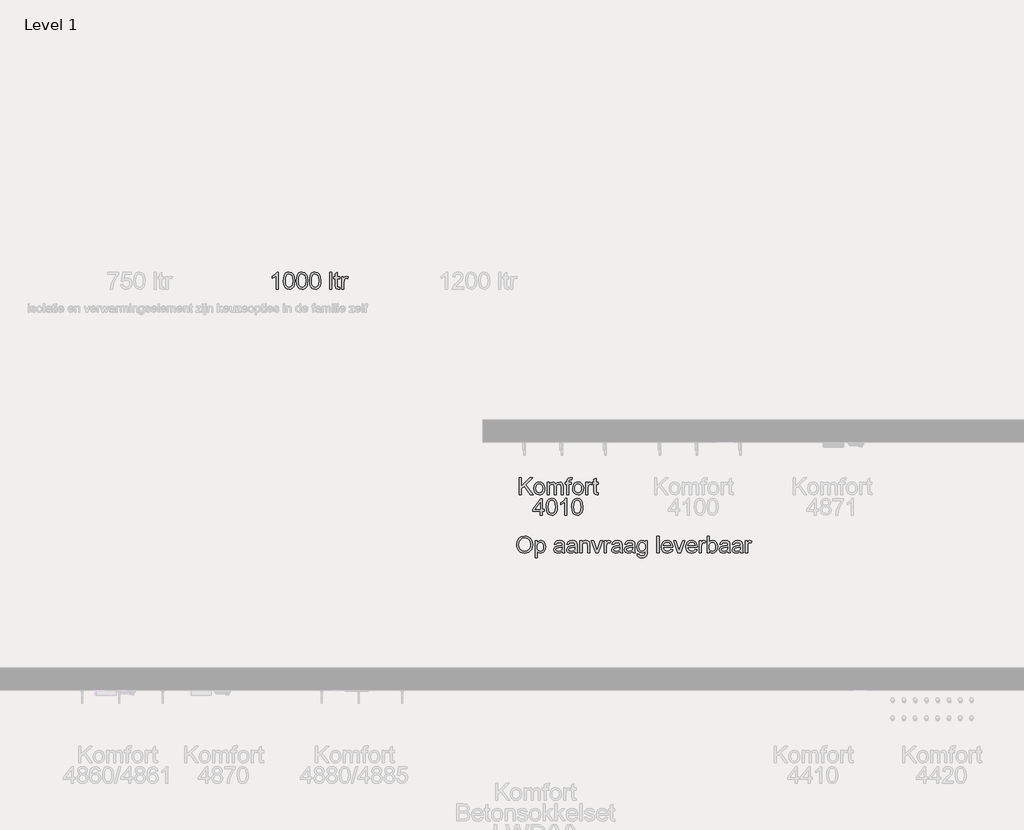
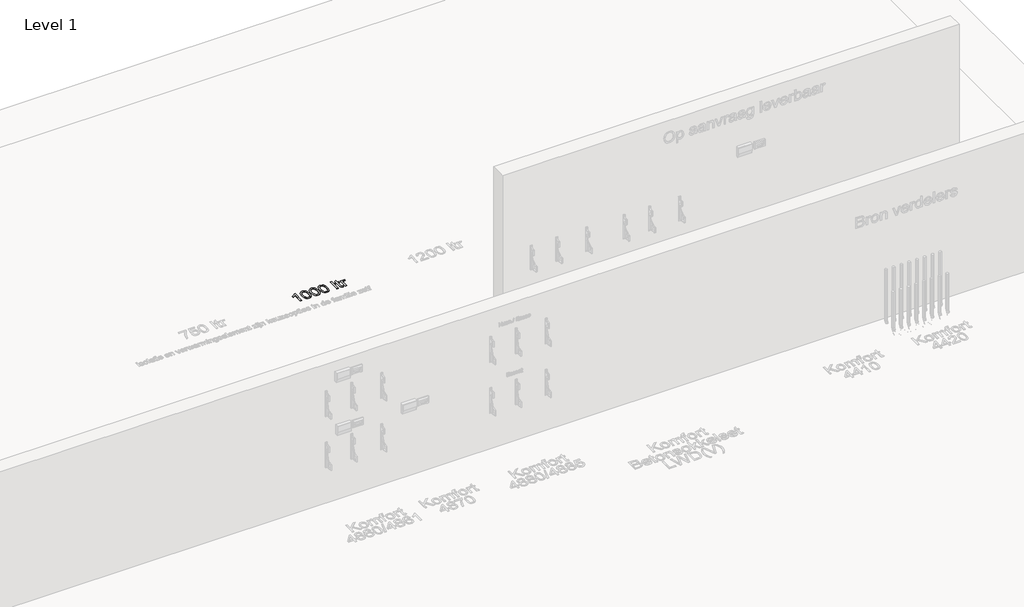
# One storey, part 31 of 34: 3 proxies.
"""IFC4 building model written with IfcOpenShell, lengths in millimetres."""

import ifcopenshell
import ifcopenshell.guid

model = None  # the IFC model being written
_history = None  # IfcOwnerHistory: only IFC2X3 demands one
_inside = {}  # id of a spatial element -> (the spatial element, [elements in it])
_under = {}  # id of a project, library or spatial element -> (it, [spatial elements below it])
_declared = {}  # id of a project -> (the project, [libraries it declares])
_typed = {}  # id of a type object -> (the type object, [elements of that type])
_made_of = {}  # id of a material, layer set ... -> (it, [elements and type objects made of it])


def new_model(schema):
    """Start an empty IFC model of exactly this schema.

    Asked for "IFC4X3", IfcOpenShell would pick the latest addendum, in which some entities
    have other attributes; the version numbers below select the first issue.
    IFC2X3 requires an IfcOwnerHistory on every rooted entity: one is made here for all.
    """
    global model, _history
    if schema == "IFC4X3":
        model = ifcopenshell.file(schema_version=(4, 3, 0, 0))
    else:
        model = ifcopenshell.file(schema=schema)
    _inside.clear()
    _under.clear()
    _declared.clear()
    _typed.clear()
    _made_of.clear()
    _history = None
    if model.schema == "IFC2X3":
        org = make("IfcOrganization", Name="unknown")
        user = make(
            "IfcPersonAndOrganization",
            ThePerson=make("IfcPerson", FamilyName="unknown"),
            TheOrganization=org,
        )
        app = make(
            "IfcApplication",
            ApplicationDeveloper=org,
            Version="unknown",
            ApplicationFullName="unknown",
            ApplicationIdentifier="unknown",
        )
        _history = make(
            "IfcOwnerHistory",
            OwningUser=user,
            OwningApplication=app,
            ChangeAction="ADDED",
            CreationDate=0,
        )
    return model


def make(cls, **values):
    """One entity of the class cls with the attributes given. An attribute that is None is left unset."""
    return model.create_entity(
        cls, **{name: value for name, value in values.items() if value is not None}
    )


def rooted(cls, **values):
    """An entity with a GlobalId (a new one), such as an element, a storey or a relation."""
    return make(cls, GlobalId=ifcopenshell.guid.new(), OwnerHistory=_history, **values)


def si_unit(unit_type, name, prefix=None):
    """IfcSIUnit, for example si_unit("LENGTHUNIT", "METRE", prefix="MILLI")."""
    return make("IfcSIUnit", UnitType=unit_type, Prefix=prefix, Name=name)


def assignment(units):
    """IfcUnitAssignment: the units of a project."""
    return None if units is None else make("IfcUnitAssignment", Units=units)


def point(xyz):
    """IfcCartesianPoint."""
    return None if xyz is None else make("IfcCartesianPoint", Coordinates=xyz)


def direction(xyz):
    """IfcDirection."""
    return None if xyz is None else make("IfcDirection", DirectionRatios=xyz)


def frame(location, z_axis=None, x_axis=None):
    """IfcAxis2Placement3D, a coordinate frame: its origin and axes. An axis left out is left unset."""
    return make(
        "IfcAxis2Placement3D",
        Location=point(location),
        Axis=direction(z_axis),
        RefDirection=direction(x_axis),
    )


def origin():
    """The frame at (0, 0, 0) with its axes left unset."""
    return frame((0.0, 0.0, 0.0))


def origin_with_axes():
    """The frame at (0, 0, 0) with the z axis (0, 0, 1) and the x axis (1, 0, 0) written out."""
    return frame((0.0, 0.0, 0.0), z_axis=(0.0, 0.0, 1.0), x_axis=(1.0, 0.0, 0.0))


def place(relative_to, where):
    """IfcLocalPlacement: puts the frame where relative to a parent placement (None: the world)."""
    return make(
        "IfcLocalPlacement", PlacementRelTo=relative_to, RelativePlacement=where
    )


def context(
    kind, dimensions, precision=None, world=None, true_north=None, identifier=None
):
    """IfcGeometricRepresentationContext, for example the 3D "Model" context."""
    return make(
        "IfcGeometricRepresentationContext",
        ContextIdentifier=identifier,
        ContextType=kind,
        CoordinateSpaceDimension=dimensions,
        Precision=precision,
        WorldCoordinateSystem=world,
        TrueNorth=true_north,
    )


def project(units=None, contexts=None):
    """IfcProject with its units and contexts."""
    return rooted(
        "IfcProject",
        Name="project",
        RepresentationContexts=contexts,
        UnitsInContext=assignment(units),
    )


def spatial(cls, under=None, at=None, **own):
    """A site, building, storey or space (cls), placed at a placement, below another one or the project."""
    s = rooted(cls, ObjectPlacement=at, **own)
    if under is not None:
        _under.setdefault(under.id(), (under, []))[1].append(s)
    return s


def polyline(points):
    """IfcPolyline through the points."""
    return make("IfcPolyline", Points=[point(p) for p in points])


def outline(outer, holes=None, kind="AREA"):
    """IfcArbitraryClosedProfileDef: a profile drawn as a closed curve; with holes, ...WithVoids."""
    if holes is None:
        return make("IfcArbitraryClosedProfileDef", ProfileType=kind, OuterCurve=outer)
    return make(
        "IfcArbitraryProfileDefWithVoids",
        ProfileType=kind,
        OuterCurve=outer,
        InnerCurves=holes,
    )


def extrude(swept, where, along, depth):
    """IfcExtrudedAreaSolid: the profile swept, set in the frame where, extruded along a direction by depth."""
    return make(
        "IfcExtrudedAreaSolid",
        SweptArea=swept,
        Position=where,
        ExtrudedDirection=direction(along),
        Depth=depth,
    )


def shape(context_of_items, identifier, shape_type, items):
    """IfcShapeRepresentation: the items that make up one representation, for example the "Body"."""
    return make(
        "IfcShapeRepresentation",
        ContextOfItems=context_of_items,
        RepresentationIdentifier=identifier,
        RepresentationType=shape_type,
        Items=items,
    )


def made_of(thing, what):
    """Note that an element or type object is made of a material, layer set ...; save() writes the relation."""
    if what is not None:
        _made_of.setdefault(what.id(), (what, []))[1].append(thing)
    return thing


def element(
    cls,
    number,
    at=None,
    inside=None,
    cuts=None,
    type_object=None,
    material=None,
    context=None,
    identifier="Body",
    shape_type=None,
    held_by="IfcProductDefinitionShape",
    body=None,
    shapes=None,
    **own,
):
    """One element of the class cls, such as IfcWall. Its Tag is "e" and its number.

    at: its placement. inside: the storey or other place that contains it. cuts: it is an
    opening in that element (IfcRelVoidsElement). A single representation is given by context,
    identifier, shape_type and body (its items); several are given by shapes. held_by: the class
    of the entity that holds the representations. save() writes the other relations.
    """
    e = rooted(cls, Tag="e%d" % number, ObjectPlacement=at, **own)
    if body is not None:
        shapes = [shape(context, identifier, shape_type, body)]
    if shapes is not None:
        e.Representation = make(held_by, Representations=shapes)
    if inside is not None:
        _inside.setdefault(inside.id(), (inside, []))[1].append(e)
    if cuts is not None:
        rooted(
            "IfcRelVoidsElement", RelatingBuildingElement=cuts, RelatedOpeningElement=e
        )
    if type_object is not None:
        _typed.setdefault(type_object.id(), (type_object, []))[1].append(e)
    return made_of(e, material)


def aggregate(whole, parts):
    """IfcRelAggregates: a whole, such as a stair, and the parts it consists of."""
    return rooted("IfcRelAggregates", RelatingObject=whole, RelatedObjects=parts)


def save(model, path):
    """Write the relations noted so far, then the file.

    IfcRelAggregates (storeys below a building ...), IfcRelContainedInSpatialStructure (elements
    in a storey), IfcRelDefinesByType, IfcRelAssociatesMaterial and IfcRelDeclares: one each for
    every whole, place, type object, material and project.
    """
    for whole, parts in _under.values():
        aggregate(whole, parts)
    for where, things in _inside.values():
        rooted(
            "IfcRelContainedInSpatialStructure",
            RelatedElements=things,
            RelatingStructure=where,
        )
    for kind, things in _typed.values():
        rooted("IfcRelDefinesByType", RelatedObjects=things, RelatingType=kind)
    for what, things in _made_of.values():
        rooted("IfcRelAssociatesMaterial", RelatedObjects=things, RelatingMaterial=what)
    for by, libraries in _declared.values():
        rooted("IfcRelDeclares", RelatingContext=by, RelatedDefinitions=libraries)
    model.write(path)


model = new_model("IFC4")

# Units and contexts
model_context = context("Model", 3, world=origin())
ifc_project = project(units=[si_unit("LENGTHUNIT", "METRE", prefix="MILLI")], contexts=[model_context])

# Site, building, storey
site = spatial("IfcSite", under=ifc_project)
building = spatial("IfcBuilding", under=site)
storey = spatial("IfcBuildingStorey", under=building, Name="Level 1", Elevation=0.0)

# Proxies
placement = place(None, origin())
element("IfcBuildingElementProxy", 1, Name="type", ObjectType="type", at=placement, inside=storey, context=model_context, shape_type="SweptSolid", body=[
    extrude(outline(polyline([(-2802.4145888, 8879.9570091), (-2797.4927138, 8912.6162639), (-2782.7270888, 8937.3247976), (-2760.1820167, 8952.8746774), (-2731.9218003, 8958.0579707), (-2712.5498051, 8955.6240764), (-2695.1790119, 8948.3223937), (-2680.7559349, 8936.6667447), (-2670.2270888, 8921.1709514), (-2663.7907907, 8902.583211), (-2661.645358, 8881.6517207), (-2663.903471, 8860.4407832), (-2670.6778099, 8841.5916245), (-2681.5942763, 8826.068788), (-2696.2787715, 8814.8368168), (-2713.5008268, 8808.021913), (-2732.0299734, 8805.7502784), (-2751.6994445, 8808.2607952), (-2769.1693965, 8815.7923457), (-2783.5564157, 8827.6643409), (-2793.9770888, 8843.1961918), (-2800.3052138, 8861.0672856), (-2802.4145888, 8879.9570091)]), holes=[polyline([(-2783.9530503, 8879.7767207), (-2780.2616441, 8856.6727543), (-2769.1874253, 8839.067586), (-2752.5422931, 8827.9257591), (-2732.1381465, 8824.2118168), (-2711.4365239, 8827.9618168), (-2694.7643484, 8839.2118168), (-2683.7712594, 8857.3578505), (-2680.1068965, 8881.7959514), (-2681.6754061, 8898.1391005), (-2686.3809349, 8912.2647014), (-2694.1017883, 8923.8166846), (-2704.7162715, 8932.4389803), (-2717.5212594, 8937.8070692), (-2731.8136272, 8939.5964322), (-2751.6724013, 8936.1484154), (-2768.5564157, 8925.8043649), (-2780.1038917, 8907.4014202), (-2783.9530503, 8879.7767207)])]), origin_with_axes(), (0.0, 0.0, 1.0), 5.0),
    extrude(outline(polyline([(-2638.5684349, 8766.5195091), (-2638.5684349, 8916.5195091), (-2620.1068965, 8916.5195091), (-2620.1068965, 8898.4185476), (-2607.3424734, 8913.725038), (-2590.1068965, 8918.8272014), (-2577.6219205, 8917.0423457), (-2566.7054542, 8911.6877784), (-2557.817233, 8903.0880187), (-2551.4169926, 8891.567586), (-2546.2607426, 8863.1180668), (-2547.7165719, 8847.3293048), (-2552.0840599, 8833.208211), (-2559.223483, 8821.4714322), (-2568.9951176, 8812.8356149), (-2580.3758268, 8807.5216125), (-2592.3424734, 8805.7502784), (-2608.4061753, 8810.4918649), (-2620.1068965, 8822.4810476), (-2620.1068965, 8766.5195091), (-2638.5684349, 8766.5195091)]), holes=[polyline([(-2620.1068965, 8861.4233553), (-2618.1102018, 8844.8728745), (-2612.1201176, 8833.2983553), (-2603.2814758, 8826.4834514), (-2592.739108, 8824.2118168), (-2582.0254662, 8826.5645812), (-2572.9614638, 8833.6228745), (-2566.7820768, 8845.6210716), (-2564.7222811, 8862.7935476), (-2566.7324974, 8879.2538841), (-2572.7631465, 8890.990663), (-2581.5882667, 8898.021913), (-2591.9818965, 8900.365663), (-2602.4160912, 8897.873175), (-2611.5792522, 8890.395711), (-2617.9749854, 8878.1676461), (-2620.1068965, 8861.4233553)])]), origin_with_axes(), (0.0, 0.0, 1.0), 5.0),
    extrude(outline(polyline([(-2398.5684349, 8821.9041245), (-2416.4710792, 8809.3921053), (-2436.2487234, 8805.7502784), (-2451.6769085, 8807.9407832), (-2463.0576176, 8814.5122976), (-2470.075346, 8824.4912639), (-2472.4145888, 8836.9041245), (-2468.8809349, 8851.5074899), (-2459.5960792, 8862.1084514), (-2446.6693965, 8868.1661437), (-2430.6958388, 8870.942586), (-2398.676608, 8877.2887399), (-2398.5684349, 8881.3993168), (-2399.8394686, 8889.6384995), (-2403.6525695, 8895.0291245), (-2412.1802138, 8899.0315284), (-2424.0612234, 8900.365663), (-2442.739108, 8896.8139803), (-2451.645358, 8884.2118168), (-2470.1068965, 8886.5195091), (-2462.1201176, 8904.5483553), (-2446.0383869, 8915.1132591), (-2421.6814157, 8918.8272014), (-2399.3076176, 8915.5459514), (-2386.6693965, 8907.3067687), (-2381.0083388, 8894.7767207), (-2380.1068965, 8878.6228745), (-2380.1068965, 8855.6541245), (-2379.1693965, 8823.5808072), (-2375.4915119, 8808.0579707), (-2393.9530503, 8808.0579707), (-2398.5684349, 8821.9041245)]), holes=[polyline([(-2398.5684349, 8858.8272014), (-2428.3520888, 8853.1661437), (-2444.2355022, 8850.1733553), (-2451.4290119, 8845.3055668), (-2453.9530503, 8838.2022014), (-2448.4542522, 8828.2142207), (-2432.3184349, 8824.2118168), (-2413.6405503, 8828.6288841), (-2401.5972811, 8839.3199899), (-2398.676608, 8853.598836), (-2398.5684349, 8858.8272014)])]), origin_with_axes(), (0.0, 0.0, 1.0), 5.0),
    extrude(outline(polyline([(-2285.4915119, 8821.9041245), (-2303.3941561, 8809.3921053), (-2323.1718003, 8805.7502784), (-2338.5999854, 8807.9407832), (-2349.9806945, 8814.5122976), (-2356.9984229, 8824.4912639), (-2359.3376657, 8836.9041245), (-2355.8040119, 8851.5074899), (-2346.5191561, 8862.1084514), (-2333.5924734, 8868.1661437), (-2317.6189157, 8870.942586), (-2285.5996849, 8877.2887399), (-2285.4915119, 8881.3993168), (-2286.7625455, 8889.6384995), (-2290.5756465, 8895.0291245), (-2299.1032907, 8899.0315284), (-2310.9843003, 8900.365663), (-2329.6621849, 8896.8139803), (-2338.5684349, 8884.2118168), (-2357.0299734, 8886.5195091), (-2349.0431945, 8904.5483553), (-2332.9614638, 8915.1132591), (-2308.6044926, 8918.8272014), (-2286.2306945, 8915.5459514), (-2273.5924734, 8907.3067687), (-2267.9314157, 8894.7767207), (-2267.0299734, 8878.6228745), (-2267.0299734, 8855.6541245), (-2266.0924734, 8823.5808072), (-2262.4145888, 8808.0579707), (-2280.8761272, 8808.0579707), (-2285.4915119, 8821.9041245)]), holes=[polyline([(-2285.4915119, 8858.8272014), (-2315.2751657, 8853.1661437), (-2331.1585792, 8850.1733553), (-2338.3520888, 8845.3055668), (-2340.8761272, 8838.2022014), (-2335.3773292, 8828.2142207), (-2319.2415119, 8824.2118168), (-2300.5636272, 8828.6288841), (-2288.520358, 8839.3199899), (-2285.5996849, 8853.598836), (-2285.4915119, 8858.8272014)])]), origin_with_axes(), (0.0, 0.0, 1.0), 5.0),
    extrude(outline(polyline([(-2241.645358, 8808.0579707), (-2241.645358, 8916.5195091), (-2223.1838195, 8916.5195091), (-2223.1838195, 8901.3752784), (-2209.067233, 8914.4642207), (-2189.7943965, 8918.8272014), (-2172.3605022, 8915.3115764), (-2160.4614638, 8906.0808072), (-2154.926608, 8892.505086), (-2153.9530503, 8874.6565284), (-2153.9530503, 8808.0579707), (-2172.4145888, 8808.0579707), (-2172.4145888, 8872.1685476), (-2174.5419926, 8888.5026822), (-2182.0600215, 8897.1384995), (-2194.7343003, 8900.365663), (-2205.5471008, 8898.5537639), (-2214.7643484, 8893.1180668), (-2221.0789518, 8882.6162639), (-2223.1838195, 8865.6060476), (-2223.1838195, 8808.0579707), (-2241.645358, 8808.0579707)])), origin_with_axes(), (0.0, 0.0, 1.0), 5.0),
    extrude(outline(polyline([(-2101.957858, 8808.0579707), (-2140.1068965, 8916.5195091), (-2120.5636272, 8916.5195091), (-2097.4506465, 8851.5435476), (-2090.4915119, 8829.692586), (-2083.676608, 8850.317586), (-2060.4193965, 8916.5195091), (-2040.8761272, 8916.5195091), (-2078.5564157, 8808.0579707), (-2101.957858, 8808.0579707)])), origin_with_axes(), (0.0, 0.0, 1.0), 5.0),
    extrude(outline(polyline([(-2024.7222811, 8808.0579707), (-2024.7222811, 8916.5195091), (-2008.5684349, 8916.5195091), (-2008.5684349, 8900.473836), (-1997.1020888, 8915.2574899), (-1985.5636272, 8918.8272014), (-1967.0299734, 8913.130086), (-1973.1958388, 8896.5796053), (-1986.176608, 8900.365663), (-1996.6153099, 8896.723836), (-2003.2679542, 8886.6276822), (-2006.2607426, 8865.0651822), (-2006.2607426, 8808.0579707), (-2024.7222811, 8808.0579707)])), origin_with_axes(), (0.0, 0.0, 1.0), 5.0),
    extrude(outline(polyline([(-1886.2607426, 8821.9041245), (-1904.1633869, 8809.3921053), (-1923.9410311, 8805.7502784), (-1939.3692162, 8807.9407832), (-1950.7499253, 8814.5122976), (-1957.7676537, 8824.4912639), (-1960.1068965, 8836.9041245), (-1956.5732426, 8851.5074899), (-1947.2883869, 8862.1084514), (-1934.3617042, 8868.1661437), (-1918.3881465, 8870.942586), (-1886.3689157, 8877.2887399), (-1886.2607426, 8881.3993168), (-1887.5317763, 8889.6384995), (-1891.3448772, 8895.0291245), (-1899.8725215, 8899.0315284), (-1911.7535311, 8900.365663), (-1930.4314157, 8896.8139803), (-1939.3376657, 8884.2118168), (-1957.7992042, 8886.5195091), (-1949.8124253, 8904.5483553), (-1933.7306945, 8915.1132591), (-1909.3737234, 8918.8272014), (-1886.9999253, 8915.5459514), (-1874.3617042, 8907.3067687), (-1868.7006465, 8894.7767207), (-1867.7992042, 8878.6228745), (-1867.7992042, 8855.6541245), (-1866.8617042, 8823.5808072), (-1863.1838195, 8808.0579707), (-1881.645358, 8808.0579707), (-1886.2607426, 8821.9041245)]), holes=[polyline([(-1886.2607426, 8858.8272014), (-1916.0443965, 8853.1661437), (-1931.9278099, 8850.1733553), (-1939.1213195, 8845.3055668), (-1941.645358, 8838.2022014), (-1936.1465599, 8828.2142207), (-1920.0107426, 8824.2118168), (-1901.332858, 8828.6288841), (-1889.2895888, 8839.3199899), (-1886.3689157, 8853.598836), (-1886.2607426, 8858.8272014)])]), origin_with_axes(), (0.0, 0.0, 1.0), 5.0),
    extrude(outline(polyline([(-1773.1838195, 8821.9041245), (-1791.0864638, 8809.3921053), (-1810.864108, 8805.7502784), (-1826.2922931, 8807.9407832), (-1837.6730022, 8814.5122976), (-1844.6907306, 8824.4912639), (-1847.0299734, 8836.9041245), (-1843.4963195, 8851.5074899), (-1834.2114638, 8862.1084514), (-1821.2847811, 8868.1661437), (-1805.3112234, 8870.942586), (-1773.2919926, 8877.2887399), (-1773.1838195, 8881.3993168), (-1774.4548532, 8889.6384995), (-1778.2679542, 8895.0291245), (-1786.7955984, 8899.0315284), (-1798.676608, 8900.365663), (-1817.3544926, 8896.8139803), (-1826.2607426, 8884.2118168), (-1844.7222811, 8886.5195091), (-1836.7355022, 8904.5483553), (-1820.6537715, 8915.1132591), (-1796.2968003, 8918.8272014), (-1773.9230022, 8915.5459514), (-1761.2847811, 8907.3067687), (-1755.6237234, 8894.7767207), (-1754.7222811, 8878.6228745), (-1754.7222811, 8855.6541245), (-1753.7847811, 8823.5808072), (-1750.1068965, 8808.0579707), (-1768.5684349, 8808.0579707), (-1773.1838195, 8821.9041245)]), holes=[polyline([(-1773.1838195, 8858.8272014), (-1802.9674734, 8853.1661437), (-1818.8508869, 8850.1733553), (-1826.0443965, 8845.3055668), (-1828.5684349, 8838.2022014), (-1823.0696369, 8828.2142207), (-1806.9338195, 8824.2118168), (-1788.2559349, 8828.6288841), (-1776.2126657, 8839.3199899), (-1773.2919926, 8853.598836), (-1773.1838195, 8858.8272014)])]), origin_with_axes(), (0.0, 0.0, 1.0), 5.0),
    extrude(outline(polyline([(-1733.9530503, 8798.8272014), (-1715.4915119, 8796.5195091), (-1709.5059349, 8786.7839322), (-1691.5852619, 8782.6733553), (-1672.6910311, 8787.3247976), (-1663.676608, 8800.3776822), (-1662.4145888, 8821.9041245), (-1675.4133869, 8811.5195091), (-1691.2607426, 8808.0579707), (-1710.2946969, 8812.0874178), (-1724.4879061, 8824.1757591), (-1733.3175335, 8841.8981149), (-1736.2607426, 8862.8296053), (-1730.9782907, 8891.4413841), (-1724.5149494, 8903.0564683), (-1715.6898292, 8911.6877784), (-1704.8049133, 8917.0423457), (-1692.1621849, 8918.8272014), (-1675.692834, 8914.7887399), (-1662.4145888, 8902.6733553), (-1662.4145888, 8916.5195091), (-1643.9530503, 8916.5195091), (-1643.9530503, 8822.8776822), (-1645.2150695, 8801.2565885), (-1649.0011272, 8787.0183072), (-1655.5230623, 8777.575699), (-1664.9927138, 8770.3416245), (-1677.2027498, 8765.7442687), (-1691.9458388, 8764.2118168), (-1709.1228219, 8766.3707711), (-1722.6489638, 8772.8476341), (-1731.325346, 8783.6604346), (-1733.9530503, 8798.8272014)]), holes=[polyline([(-1717.7992042, 8864.0916245), (-1715.8295527, 8847.1580308), (-1709.9205984, 8835.5159034), (-1701.0368844, 8828.7686077), (-1690.1429542, 8826.5195091), (-1679.3301537, 8828.755086), (-1670.4013676, 8835.4618168), (-1664.4112835, 8846.9552062), (-1662.4145888, 8863.5507591), (-1664.4698772, 8879.5558673), (-1670.6357426, 8891.0808072), (-1679.6952378, 8898.044449), (-1690.4314157, 8900.365663), (-1700.9737835, 8898.0805067), (-1709.8124253, 8891.225038), (-1715.8025094, 8879.8713721), (-1717.7992042, 8864.0916245)])]), origin_with_axes(), (0.0, 0.0, 1.0), 5.0),
    extrude(outline(polyline([(-1558.5684349, 8808.0579707), (-1558.5684349, 8955.7502784), (-1540.1068965, 8955.7502784), (-1540.1068965, 8808.0579707), (-1558.5684349, 8808.0579707)])), origin_with_axes(), (0.0, 0.0, 1.0), 5.0),
    extrude(outline(polyline([(-1436.4770888, 8840.365663), (-1418.3761272, 8838.0579707), (-1424.8980623, 8824.4191485), (-1435.3052138, 8814.223836), (-1449.3632066, 8807.8686678), (-1466.8376657, 8805.7502784), (-1488.4993244, 8809.4056269), (-1505.1669926, 8820.3716726), (-1515.7949974, 8837.936276), (-1519.3376657, 8861.3872976), (-1515.7589397, 8885.6270812), (-1505.0227619, 8903.755086), (-1488.5804542, 8915.0591726), (-1467.8833388, 8918.8272014), (-1447.8307546, 8915.068187), (-1431.8076176, 8903.7911437), (-1421.3013075, 8885.6991966), (-1417.7992042, 8861.4954707), (-1417.9073772, 8856.5195091), (-1500.8761272, 8856.5195091), (-1497.6805143, 8842.7003985), (-1490.2571369, 8832.5411437), (-1479.543495, 8826.2941485), (-1466.4770888, 8824.2118168), (-1448.3761272, 8828.0699899), (-1436.4770888, 8840.365663)]), holes=[polyline([(-1500.8761272, 8874.9810476), (-1436.2607426, 8874.9810476), (-1438.7577378, 8884.7346534), (-1443.6525695, 8891.7118168), (-1454.4157907, 8898.2022014), (-1467.9554542, 8900.365663), (-1480.3998652, 8898.639401), (-1490.6898292, 8893.4606149), (-1497.8427739, 8885.388199), (-1500.8761272, 8874.9810476)])]), origin_with_axes(), (0.0, 0.0, 1.0), 5.0),
    extrude(outline(polyline([(-1372.7270888, 8808.0579707), (-1410.8761272, 8916.5195091), (-1391.332858, 8916.5195091), (-1368.2198772, 8851.5435476), (-1361.2607426, 8829.692586), (-1354.4458388, 8850.317586), (-1331.1886272, 8916.5195091), (-1311.645358, 8916.5195091), (-1349.3256465, 8808.0579707), (-1372.7270888, 8808.0579707)])), origin_with_axes(), (0.0, 0.0, 1.0), 5.0),
    extrude(outline(polyline([(-1219.5540119, 8840.365663), (-1201.4530503, 8838.0579707), (-1207.9749854, 8824.4191485), (-1218.3821369, 8814.223836), (-1232.4401296, 8807.8686678), (-1249.9145888, 8805.7502784), (-1271.5762474, 8809.4056269), (-1288.2439157, 8820.3716726), (-1298.8719205, 8837.936276), (-1302.4145888, 8861.3872976), (-1298.8358628, 8885.6270812), (-1288.0996849, 8903.755086), (-1271.6573772, 8915.0591726), (-1250.9602619, 8918.8272014), (-1230.9076777, 8915.068187), (-1214.8845407, 8903.7911437), (-1204.3782306, 8885.6991966), (-1200.8761272, 8861.4954707), (-1200.9843003, 8856.5195091), (-1283.9530503, 8856.5195091), (-1280.7574373, 8842.7003985), (-1273.3340599, 8832.5411437), (-1262.6204181, 8826.2941485), (-1249.5540119, 8824.2118168), (-1231.4530503, 8828.0699899), (-1219.5540119, 8840.365663)]), holes=[polyline([(-1283.9530503, 8874.9810476), (-1219.3376657, 8874.9810476), (-1221.8346609, 8884.7346534), (-1226.7294926, 8891.7118168), (-1237.4927138, 8898.2022014), (-1251.0323772, 8900.365663), (-1263.4767883, 8898.639401), (-1273.7667522, 8893.4606149), (-1280.9196969, 8885.388199), (-1283.9530503, 8874.9810476)])]), origin_with_axes(), (0.0, 0.0, 1.0), 5.0),
    extrude(outline(polyline([(-1182.4145888, 8808.0579707), (-1182.4145888, 8916.5195091), (-1166.2607426, 8916.5195091), (-1166.2607426, 8900.473836), (-1154.7943965, 8915.2574899), (-1143.2559349, 8918.8272014), (-1124.7222811, 8913.130086), (-1130.8881465, 8896.5796053), (-1143.8689157, 8900.365663), (-1154.3076176, 8896.723836), (-1160.9602619, 8886.6276822), (-1163.9530503, 8865.0651822), (-1163.9530503, 8808.0579707), (-1182.4145888, 8808.0579707)])), origin_with_axes(), (0.0, 0.0, 1.0), 5.0),
    extrude(outline(polyline([(-1094.7222811, 8808.0579707), (-1113.1838195, 8808.0579707), (-1113.1838195, 8955.7502784), (-1094.7222811, 8955.7502784), (-1094.7222811, 8900.9786437), (-1081.7955984, 8914.365062), (-1065.7318965, 8918.8272014), (-1047.2343003, 8914.8067687), (-1032.8833388, 8903.5026822), (-1024.067233, 8885.9245572), (-1020.8761272, 8863.911336), (-1024.1799133, 8839.2659034), (-1034.0912715, 8820.9305668), (-1048.6360431, 8809.5453505), (-1065.8400695, 8805.7502784), (-1082.255334, 8810.6451101), (-1094.7222811, 8825.3296053), (-1094.7222811, 8808.0579707)]), holes=[polyline([(-1094.7222811, 8863.0459514), (-1093.4602619, 8847.6493168), (-1089.6742042, 8837.2286437), (-1080.0017282, 8827.4660235), (-1067.426608, 8824.2118168), (-1056.7715599, 8826.6096534), (-1047.6669926, 8833.803163), (-1041.4199974, 8845.7472735), (-1039.3376657, 8862.396913), (-1041.3343604, 8879.2899418), (-1047.3244445, 8891.098836), (-1056.1450575, 8898.0489562), (-1066.6333388, 8900.365663), (-1077.2883869, 8897.9678264), (-1086.3929542, 8890.7743168), (-1092.6399494, 8879.0465524), (-1094.7222811, 8863.0459514)])]), origin_with_axes(), (0.0, 0.0, 1.0), 5.0),
    extrude(outline(polyline([(-930.8761272, 8821.9041245), (-948.7787715, 8809.3921053), (-968.5564157, 8805.7502784), (-983.9846008, 8807.9407832), (-995.3653099, 8814.5122976), (-1002.3830383, 8824.4912639), (-1004.7222811, 8836.9041245), (-1001.1886272, 8851.5074899), (-991.9037715, 8862.1084514), (-978.9770888, 8868.1661437), (-963.0035311, 8870.942586), (-930.9843003, 8877.2887399), (-930.8761272, 8881.3993168), (-932.1471609, 8889.6384995), (-935.9602619, 8895.0291245), (-944.4879061, 8899.0315284), (-956.3689157, 8900.365663), (-975.0468003, 8896.8139803), (-983.9530503, 8884.2118168), (-1002.4145888, 8886.5195091), (-994.4278099, 8904.5483553), (-978.3460792, 8915.1132591), (-953.989108, 8918.8272014), (-931.6153099, 8915.5459514), (-918.9770888, 8907.3067687), (-913.3160311, 8894.7767207), (-912.4145888, 8878.6228745), (-912.4145888, 8855.6541245), (-911.4770888, 8823.5808072), (-907.7992042, 8808.0579707), (-926.2607426, 8808.0579707), (-930.8761272, 8821.9041245)]), holes=[polyline([(-930.8761272, 8858.8272014), (-960.6597811, 8853.1661437), (-976.5431945, 8850.1733553), (-983.7367042, 8845.3055668), (-986.2607426, 8838.2022014), (-980.7619445, 8828.2142207), (-964.6261272, 8824.2118168), (-945.9482426, 8828.6288841), (-933.9049734, 8839.3199899), (-930.9843003, 8853.598836), (-930.8761272, 8858.8272014)])]), origin_with_axes(), (0.0, 0.0, 1.0), 5.0),
    extrude(outline(polyline([(-817.7992042, 8821.9041245), (-835.7018484, 8809.3921053), (-855.4794926, 8805.7502784), (-870.9076777, 8807.9407832), (-882.2883869, 8814.5122976), (-889.3061152, 8824.4912639), (-891.645358, 8836.9041245), (-888.1117042, 8851.5074899), (-878.8268484, 8862.1084514), (-865.9001657, 8868.1661437), (-849.926608, 8870.942586), (-817.9073772, 8877.2887399), (-817.7992042, 8881.3993168), (-819.0702378, 8889.6384995), (-822.8833388, 8895.0291245), (-831.410983, 8899.0315284), (-843.2919926, 8900.365663), (-861.9698772, 8896.8139803), (-870.8761272, 8884.2118168), (-889.3376657, 8886.5195091), (-881.3508869, 8904.5483553), (-865.2691561, 8915.1132591), (-840.9121849, 8918.8272014), (-818.5383869, 8915.5459514), (-805.9001657, 8907.3067687), (-800.239108, 8894.7767207), (-799.3376657, 8878.6228745), (-799.3376657, 8855.6541245), (-798.4001657, 8823.5808072), (-794.7222811, 8808.0579707), (-813.1838195, 8808.0579707), (-817.7992042, 8821.9041245)]), holes=[polyline([(-817.7992042, 8858.8272014), (-847.582858, 8853.1661437), (-863.4662715, 8850.1733553), (-870.6597811, 8845.3055668), (-873.1838195, 8838.2022014), (-867.6850215, 8828.2142207), (-851.5492042, 8824.2118168), (-832.8713195, 8828.6288841), (-820.8280503, 8839.3199899), (-817.9073772, 8853.598836), (-817.7992042, 8858.8272014)])]), origin_with_axes(), (0.0, 0.0, 1.0), 5.0),
    extrude(outline(polyline([(-773.9530503, 8808.0579707), (-773.9530503, 8916.5195091), (-757.7992042, 8916.5195091), (-757.7992042, 8900.473836), (-746.332858, 8915.2574899), (-734.7943965, 8918.8272014), (-716.2607426, 8913.130086), (-722.426608, 8896.5796053), (-735.4073772, 8900.365663), (-745.8460792, 8896.723836), (-752.4987234, 8886.6276822), (-755.4915119, 8865.0651822), (-755.4915119, 8808.0579707), (-773.9530503, 8808.0579707)])), origin_with_axes(), (0.0, 0.0, 1.0), 5.0),
])
element("IfcBuildingElementProxy", 2, Name="type", ObjectType="type", at=placement, inside=storey, context=model_context, shape_type="SweptSolid", body=[
    extrude(outline(polyline([(-2779.7912964, 9326.140235), (-2779.7912964, 9473.8325427), (-2761.329758, 9473.8325427), (-2761.329758, 9401.5368697), (-2685.6086041, 9473.8325427), (-2659.7912964, 9473.8325427), (-2723.361008, 9413.1113889), (-2657.4836041, 9326.140235), (-2680.0557195, 9326.140235), (-2736.4499503, 9400.6354273), (-2761.329758, 9376.9094658), (-2761.329758, 9326.140235), (-2779.7912964, 9326.140235)])), origin_with_axes(), (0.0, 0.0, 1.0), 5.0),
    extrude(outline(polyline([(-2650.5605272, 9380.3710043), (-2646.5671378, 9406.5218456), (-2634.5869695, 9424.9022543), (-2619.7852868, 9433.9076629), (-2602.062931, 9436.9094658), (-2582.6683998, 9433.2541173), (-2567.1771137, 9422.2880716), (-2557.0223661, 9404.8767134), (-2553.6374503, 9381.8854273), (-2555.1338445, 9363.234586), (-2559.6230272, 9349.0368697), (-2566.9742892, 9338.4043576), (-2577.0569214, 9330.4491293), (-2589.0325825, 9325.4866894), (-2602.062931, 9323.8325427), (-2621.6918373, 9327.4743697), (-2637.1650945, 9338.3998504), (-2647.211669, 9356.1762927), (-2650.5605272, 9380.3710043)]), holes=[polyline([(-2632.0989887, 9380.407062), (-2629.9625705, 9363.6988288), (-2623.5533157, 9351.7952831), (-2613.907883, 9344.6693817), (-2602.062931, 9342.2940812), (-2590.2720657, 9344.6829033), (-2580.6446618, 9351.8493697), (-2574.235407, 9363.9106677), (-2572.0989887, 9380.983985), (-2574.2489286, 9397.2054394), (-2580.6987483, 9408.9467254), (-2590.3396738, 9416.0726269), (-2602.062931, 9418.4479273), (-2613.907883, 9416.0816413), (-2623.5533157, 9408.9827831), (-2629.9625705, 9397.1062807), (-2632.0989887, 9380.407062)])]), origin_with_axes(), (0.0, 0.0, 1.0), 5.0),
    extrude(outline(polyline([(-2532.8682195, 9326.140235), (-2532.8682195, 9434.6017735), (-2514.406681, 9434.6017735), (-2514.406681, 9416.7532158), (-2501.7143733, 9431.37461), (-2483.6494695, 9436.9094658), (-2473.3820416, 9435.4987086), (-2465.1518733, 9431.266437), (-2454.9836041, 9415.4551389), (-2440.578556, 9431.5458841), (-2422.3874503, 9436.9094658), (-2408.5097459, 9434.6783961), (-2398.2468253, 9427.985187), (-2391.9051786, 9416.6495499), (-2389.7912964, 9400.4911966), (-2389.7912964, 9326.140235), (-2408.2528349, 9326.140235), (-2408.2528349, 9392.5585043), (-2409.9655753, 9407.9731677), (-2416.1674983, 9415.563312), (-2426.7143733, 9418.4479273), (-2436.7158757, 9416.5999706), (-2444.8694214, 9411.0561004), (-2450.2915969, 9401.437711), (-2452.0989887, 9387.3661966), (-2452.0989887, 9326.140235), (-2470.5605272, 9326.140235), (-2470.5605272, 9394.6137927), (-2474.8333637, 9412.4984081), (-2480.4718854, 9416.9605475), (-2488.8417772, 9418.4479273), (-2502.5076426, 9414.4815812), (-2511.594181, 9402.8710043), (-2514.406681, 9380.8397543), (-2514.406681, 9326.140235), (-2532.8682195, 9326.140235)])), origin_with_axes(), (0.0, 0.0, 1.0), 5.0),
    extrude(outline(polyline([(-2357.4836041, 9326.140235), (-2357.4836041, 9416.140235), (-2373.6374503, 9416.140235), (-2373.6374503, 9434.6017735), (-2357.4836041, 9434.6017735), (-2357.4836041, 9445.5272543), (-2355.5364887, 9460.9238889), (-2346.0893733, 9471.921485), (-2327.4836041, 9476.140235), (-2310.6446618, 9474.1210043), (-2313.3489887, 9456.813312), (-2323.986008, 9457.6786966), (-2335.6146137, 9454.6137927), (-2339.0220657, 9443.1835043), (-2339.0220657, 9434.6017735), (-2318.2528349, 9434.6017735), (-2318.2528349, 9416.140235), (-2339.0220657, 9416.140235), (-2339.0220657, 9326.140235), (-2357.4836041, 9326.140235)])), origin_with_axes(), (0.0, 0.0, 1.0), 5.0),
    extrude(outline(polyline([(-2306.7143733, 9380.3710043), (-2302.7209839, 9406.5218456), (-2290.7408157, 9424.9022543), (-2275.939133, 9433.9076629), (-2258.2167772, 9436.9094658), (-2238.8222459, 9433.2541173), (-2223.3309599, 9422.2880716), (-2213.1762123, 9404.8767134), (-2209.7912964, 9381.8854273), (-2211.2876907, 9363.234586), (-2215.7768733, 9349.0368697), (-2223.1281354, 9338.4043576), (-2233.2107676, 9330.4491293), (-2245.1864286, 9325.4866894), (-2258.2167772, 9323.8325427), (-2277.8456834, 9327.4743697), (-2293.3189407, 9338.3998504), (-2303.3655152, 9356.1762927), (-2306.7143733, 9380.3710043)]), holes=[polyline([(-2288.2528349, 9380.407062), (-2286.1164166, 9363.6988288), (-2279.7071618, 9351.7952831), (-2270.0617291, 9344.6693817), (-2258.2167772, 9342.2940812), (-2246.4259118, 9344.6829033), (-2236.798508, 9351.8493697), (-2230.3892532, 9363.9106677), (-2228.2528349, 9380.983985), (-2230.4027748, 9397.2054394), (-2236.8525945, 9408.9467254), (-2246.49352, 9416.0726269), (-2258.2167772, 9418.4479273), (-2270.0617291, 9416.0816413), (-2279.7071618, 9408.9827831), (-2286.1164166, 9397.1062807), (-2288.2528349, 9380.407062)])]), origin_with_axes(), (0.0, 0.0, 1.0), 5.0),
    extrude(outline(polyline([(-2189.0220657, 9326.140235), (-2189.0220657, 9434.6017735), (-2172.8682195, 9434.6017735), (-2172.8682195, 9418.5561004), (-2161.4018733, 9433.3397543), (-2149.8634118, 9436.9094658), (-2131.329758, 9431.2123504), (-2137.4956233, 9414.6618697), (-2150.4763926, 9418.4479273), (-2160.9150945, 9414.8061004), (-2167.5677387, 9404.7099466), (-2170.5605272, 9383.1474466), (-2170.5605272, 9326.140235), (-2189.0220657, 9326.140235)])), origin_with_axes(), (0.0, 0.0, 1.0), 5.0),
    extrude(outline(polyline([(-2080.5605272, 9341.5368697), (-2078.2528349, 9325.5993697), (-2092.062931, 9323.8325427), (-2107.531681, 9326.8974466), (-2115.2480272, 9334.938312), (-2117.4836041, 9355.8878312), (-2117.4836041, 9416.140235), (-2131.329758, 9416.140235), (-2131.329758, 9434.6017735), (-2117.4836041, 9434.6017735), (-2117.4836041, 9460.9599466), (-2099.0220657, 9471.813312), (-2099.0220657, 9434.6017735), (-2080.5605272, 9434.6017735), (-2080.5605272, 9416.140235), (-2099.0220657, 9416.140235), (-2099.0220657, 9356.4286966), (-2098.048508, 9346.9094658), (-2094.8934599, 9343.5380716), (-2088.6013926, 9342.2940812), (-2080.5605272, 9341.5368697)])), origin_with_axes(), (0.0, 0.0, 1.0), 5.0),
    extrude(outline(polyline([(-2592.8682195, 9143.8325427), (-2592.8682195, 9178.4479273), (-2659.7912964, 9178.4479273), (-2659.7912964, 9196.9094658), (-2588.2528349, 9289.2171581), (-2574.406681, 9289.2171581), (-2574.406681, 9196.9094658), (-2555.9451426, 9196.9094658), (-2555.9451426, 9178.4479273), (-2574.406681, 9178.4479273), (-2574.406681, 9143.8325427), (-2592.8682195, 9143.8325427)]), holes=[polyline([(-2592.8682195, 9196.9094658), (-2592.8682195, 9253.952735), (-2637.0749503, 9196.9094658), (-2592.8682195, 9196.9094658)])]), origin_with_axes(), (0.0, 0.0, 1.0), 5.0),
    extrude(outline(polyline([(-2539.7912964, 9216.4887927), (-2538.4346257, 9240.1291173), (-2534.3646137, 9258.9827831), (-2527.6218253, 9273.3382519), (-2518.2468253, 9283.483985), (-2506.1720056, 9289.5146341), (-2491.329758, 9291.5248504), (-2469.767258, 9286.765235), (-2454.875431, 9273.0452831), (-2446.2215849, 9251.1943216), (-2442.8682195, 9216.4887927), (-2444.2113685, 9192.9836846), (-2448.2408157, 9174.1750908), (-2454.9430392, 9159.8061004), (-2464.3045176, 9149.6198023), (-2476.4063806, 9143.5485884), (-2491.329758, 9141.5248504), (-2510.5124503, 9145.0404754), (-2525.079758, 9155.5873504), (-2536.1134118, 9180.5663168), (-2539.7912964, 9216.4887927)]), holes=[polyline([(-2521.329758, 9216.5248504), (-2519.1662964, 9187.4848865), (-2512.6759118, 9170.6774947), (-2503.0124503, 9162.6591653), (-2491.329758, 9159.9863889), (-2479.6470657, 9162.6681798), (-2469.9836041, 9170.7135523), (-2463.4932195, 9187.5299586), (-2461.329758, 9216.5248504), (-2463.4211041, 9244.9112687), (-2469.6951426, 9261.8493697), (-2479.3405753, 9270.2598264), (-2491.5461041, 9273.063312), (-2503.1025945, 9270.59336), (-2512.3874503, 9263.1835043), (-2519.094181, 9245.1907158), (-2521.329758, 9216.5248504)])]), origin_with_axes(), (0.0, 0.0, 1.0), 5.0),
    extrude(outline(polyline([(-2357.4836041, 9143.8325427), (-2375.9451426, 9143.8325427), (-2375.9451426, 9258.9286966), (-2393.4331233, 9246.4707639), (-2412.8682195, 9237.1498504), (-2412.8682195, 9254.6017735), (-2385.8069214, 9271.8734081), (-2369.3826426, 9291.5248504), (-2357.4836041, 9291.5248504), (-2357.4836041, 9143.8325427)])), origin_with_axes(), (0.0, 0.0, 1.0), 5.0),
    extrude(outline(polyline([(-2313.6374503, 9216.4887927), (-2312.2807796, 9240.1291173), (-2308.2107676, 9258.9827831), (-2301.4679791, 9273.3382519), (-2292.0929791, 9283.483985), (-2280.0181594, 9289.5146341), (-2265.1759118, 9291.5248504), (-2243.6134118, 9286.765235), (-2228.7215849, 9273.0452831), (-2220.0677387, 9251.1943216), (-2216.7143733, 9216.4887927), (-2218.0575224, 9192.9836846), (-2222.0869695, 9174.1750908), (-2228.7891931, 9159.8061004), (-2238.1506714, 9149.6198023), (-2250.2525344, 9143.5485884), (-2265.1759118, 9141.5248504), (-2284.3586041, 9145.0404754), (-2298.9259118, 9155.5873504), (-2309.9595657, 9180.5663168), (-2313.6374503, 9216.4887927)]), holes=[polyline([(-2295.1759118, 9216.5248504), (-2293.0124503, 9187.4848865), (-2286.5220657, 9170.6774947), (-2276.8586041, 9162.6591653), (-2265.1759118, 9159.9863889), (-2253.4932195, 9162.6681798), (-2243.829758, 9170.7135523), (-2237.3393733, 9187.5299586), (-2235.1759118, 9216.5248504), (-2237.267258, 9244.9112687), (-2243.5412964, 9261.8493697), (-2253.1867291, 9270.2598264), (-2265.392258, 9273.063312), (-2276.9487483, 9270.59336), (-2286.2336041, 9263.1835043), (-2292.9403349, 9245.1907158), (-2295.1759118, 9216.5248504)])]), origin_with_axes(), (0.0, 0.0, 1.0), 5.0),
])
element("IfcBuildingElementProxy", 3, Name="type", ObjectType="type", at=placement, inside=storey, context=model_context, shape_type="SweptSolid", body=[
    extrude(outline(polyline([(-4915.1991407, 11148.0579707), (-4934.0346988, 11148.0579707), (-4934.0346988, 11265.4859035), (-4951.8769756, 11252.7755806), (-4971.7058151, 11243.265831), (-4971.7058151, 11261.0713196), (-4944.0962714, 11278.6928672), (-4927.3392465, 11298.7424359), (-4915.1991407, 11298.7424359), (-4915.1991407, 11148.0579707)])), origin_with_axes(), (0.0, 0.0, 1.0), 5.0),
    extrude(outline(polyline([(-4870.4646901, 11222.1861927), (-4869.0805341, 11246.305456), (-4864.928066, 11265.5410858), (-4858.0486727, 11280.1873878), (-4848.4837408, 11290.5386674), (-4836.1642925, 11296.6914938), (-4821.0213499, 11298.7424359), (-4799.0220066, 11293.8863936), (-4783.8284802, 11279.8884836), (-4774.9993123, 11257.5948347), (-4771.5780098, 11222.1861927), (-4772.9483702, 11198.2048851), (-4777.0594515, 11179.0152406), (-4783.8974581, 11164.3551431), (-4793.4485944, 11153.9624767), (-4805.7956338, 11147.7682636), (-4821.0213499, 11145.7035259), (-4840.5926721, 11149.2903753), (-4855.4551047, 11160.0509237), (-4866.7122937, 11185.5359489), (-4870.4646901, 11222.1861927)]), holes=[polyline([(-4851.6291319, 11222.2229809), (-4849.4218399, 11192.5946847), (-4842.799964, 11175.4467852), (-4832.9407266, 11167.2660093), (-4821.0213499, 11164.539084), (-4809.1019733, 11167.2752064), (-4799.2427358, 11175.4835734), (-4792.6208599, 11192.64067), (-4790.4135679, 11222.2229809), (-4792.5472835, 11251.184491), (-4798.9484302, 11268.4657477), (-4808.7892736, 11277.0465952), (-4821.2420791, 11279.9068777), (-4833.0326971, 11277.3868861), (-4842.5056584, 11269.8269111), (-4849.3482635, 11251.4695995), (-4851.6291319, 11222.2229809)])]), origin_with_axes(), (0.0, 0.0, 1.0), 5.0),
    extrude(outline(polyline([(-4755.0968964, 11222.1861927), (-4753.7127404, 11246.305456), (-4749.5602723, 11265.5410858), (-4742.680879, 11280.1873878), (-4733.1159472, 11290.5386674), (-4720.7964988, 11296.6914938), (-4705.6535562, 11298.7424359), (-4683.6542129, 11293.8863936), (-4668.4606865, 11279.8884836), (-4659.6315186, 11257.5948347), (-4656.2102161, 11222.1861927), (-4657.5805765, 11198.2048851), (-4661.6916578, 11179.0152406), (-4668.5296644, 11164.3551431), (-4678.0808007, 11153.9624767), (-4690.4278401, 11147.7682636), (-4705.6535562, 11145.7035259), (-4725.2248784, 11149.2903753), (-4740.087311, 11160.0509237), (-4751.3445, 11185.5359489), (-4755.0968964, 11222.1861927)]), holes=[polyline([(-4736.2613382, 11222.2229809), (-4734.0540463, 11192.5946847), (-4727.4321703, 11175.4467852), (-4717.5729329, 11167.2660093), (-4705.6535562, 11164.539084), (-4693.7341796, 11167.2752064), (-4683.8749421, 11175.4835734), (-4677.2530662, 11192.64067), (-4675.0457742, 11222.2229809), (-4677.1794898, 11251.184491), (-4683.5806365, 11268.4657477), (-4693.4214799, 11277.0465952), (-4705.8742854, 11279.9068777), (-4717.6649034, 11277.3868861), (-4727.1378647, 11269.8269111), (-4733.9804699, 11251.4695995), (-4736.2613382, 11222.2229809)])]), origin_with_axes(), (0.0, 0.0, 1.0), 5.0),
    extrude(outline(polyline([(-4639.7291027, 11222.1861927), (-4638.3449467, 11246.305456), (-4634.1924787, 11265.5410858), (-4627.3130853, 11280.1873878), (-4617.7481535, 11290.5386674), (-4605.4287052, 11296.6914938), (-4590.2857625, 11298.7424359), (-4568.2864192, 11293.8863936), (-4553.0928928, 11279.8884836), (-4544.2637249, 11257.5948347), (-4540.8424224, 11222.1861927), (-4542.2127828, 11198.2048851), (-4546.3238641, 11179.0152406), (-4553.1618707, 11164.3551431), (-4562.713007, 11153.9624767), (-4575.0600465, 11147.7682636), (-4590.2857625, 11145.7035259), (-4609.8570847, 11149.2903753), (-4624.7195173, 11160.0509237), (-4635.9767063, 11185.5359489), (-4639.7291027, 11222.1861927)]), holes=[polyline([(-4620.8935445, 11222.2229809), (-4618.6862526, 11192.5946847), (-4612.0643766, 11175.4467852), (-4602.2051392, 11167.2660093), (-4590.2857625, 11164.539084), (-4578.3663859, 11167.2752064), (-4568.5071484, 11175.4835734), (-4561.8852725, 11192.64067), (-4559.6779805, 11222.2229809), (-4561.8116961, 11251.184491), (-4568.2128428, 11268.4657477), (-4578.0536862, 11277.0465952), (-4590.5064917, 11279.9068777), (-4602.2971097, 11277.3868861), (-4611.7700711, 11269.8269111), (-4618.6126762, 11251.4695995), (-4620.8935445, 11222.2229809)])]), origin_with_axes(), (0.0, 0.0, 1.0), 5.0),
    extrude(outline(polyline([(-4460.7913002, 11148.0579707), (-4460.7913002, 11298.7424359), (-4441.9557421, 11298.7424359), (-4441.9557421, 11148.0579707), (-4460.7913002, 11148.0579707)])), origin_with_axes(), (0.0, 0.0, 1.0), 5.0),
    extrude(outline(polyline([(-4373.6768438, 11163.7665319), (-4371.322399, 11147.5061477), (-4385.4122794, 11145.7035259), (-4401.194417, 11148.8305229), (-4409.0670917, 11157.0342913), (-4411.3479601, 11178.4082353), (-4411.3479601, 11239.8813167), (-4425.4746287, 11239.8813167), (-4425.4746287, 11258.7168748), (-4411.3479601, 11258.7168748), (-4411.3479601, 11285.6090487), (-4392.5124019, 11296.6822967), (-4392.5124019, 11258.7168748), (-4373.6768438, 11258.7168748), (-4373.6768438, 11239.8813167), (-4392.5124019, 11239.8813167), (-4392.5124019, 11178.9600583), (-4391.5191205, 11169.2479736), (-4388.3001531, 11165.8082769), (-4381.8806123, 11164.539084), (-4373.6768438, 11163.7665319)])), origin_with_axes(), (0.0, 0.0, 1.0), 5.0),
    extrude(outline(polyline([(-4354.8412856, 11148.0579707), (-4354.8412856, 11258.7168748), (-4338.3601722, 11258.7168748), (-4338.3601722, 11242.346126), (-4326.6615248, 11257.4292878), (-4314.8893009, 11261.0713196), (-4295.9801664, 11255.2587841), (-4302.2709485, 11238.3730005), (-4315.5147003, 11242.2357614), (-4326.1648841, 11238.5201533), (-4332.9523069, 11228.2194574), (-4336.0057275, 11206.2201141), (-4336.0057275, 11148.0579707), (-4354.8412856, 11148.0579707)])), origin_with_axes(), (0.0, 0.0, 1.0), 5.0),
])

save(model, "model.ifc")
